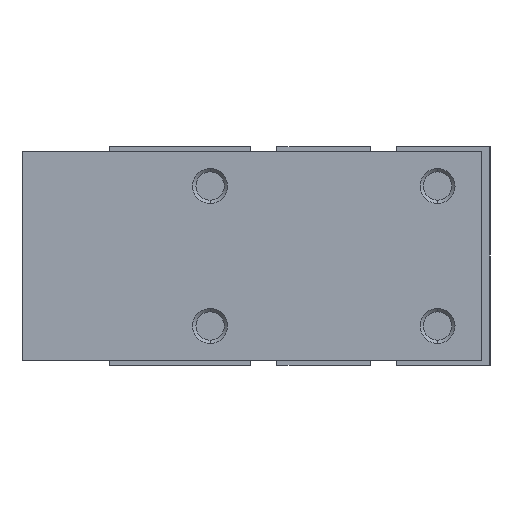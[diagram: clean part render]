
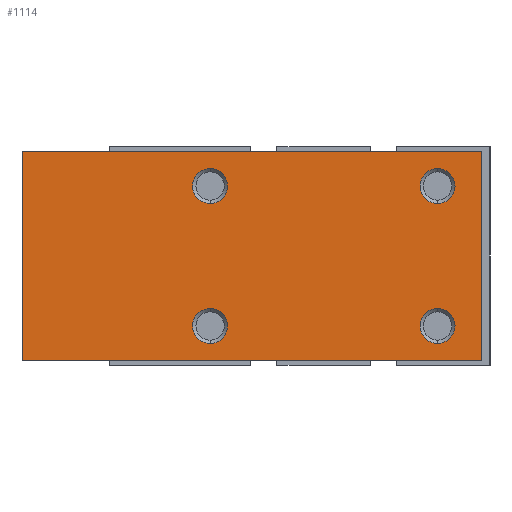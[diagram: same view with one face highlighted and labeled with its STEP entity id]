
A CAD part, left-side view. The second image highlights one B-rep face of the part: STEP entity #1114.
In plain terms, the highlighted planar face has unit normal (-1, 0, 0).
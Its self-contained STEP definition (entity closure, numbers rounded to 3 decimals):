
#5 = EDGE_CURVE ( 'NONE', #4132, #364, #1826, .T. ) ;
#10 = LINE ( 'NONE', #3155, #1952 ) ;
#198 = FACE_OUTER_BOUND ( 'NONE', #3313, .T. ) ;
#225 = CARTESIAN_POINT ( 'NONE',  ( -14., 34.5, -12. ) ) ;
#242 = DIRECTION ( 'NONE',  ( 0., 0., 1. ) ) ;
#274 = EDGE_CURVE ( 'NONE', #1792, #1536, #2158, .T. ) ;
#291 = CARTESIAN_POINT ( 'NONE',  ( -14., 13., 8. ) ) ;
#319 = CIRCLE ( 'NONE', #4915, 2. ) ;
#334 = AXIS2_PLACEMENT_3D ( 'NONE', #4377, #1597, #4406 ) ;
#364 = VERTEX_POINT ( 'NONE', #3918 ) ;
#483 = ORIENTED_EDGE ( 'NONE', *, *, #274, .F. ) ;
#571 = DIRECTION ( 'NONE',  ( -1., 0., 0. ) ) ;
#575 = EDGE_CURVE ( 'NONE', #844, #5852, #2958, .T. ) ;
#591 = PLANE ( 'NONE',  #3599 ) ;
#678 = FACE_BOUND ( 'NONE', #3384, .T. ) ;
#729 = VERTEX_POINT ( 'NONE', #4759 ) ;
#766 = ORIENTED_EDGE ( 'NONE', *, *, #3800, .F. ) ;
#836 = VERTEX_POINT ( 'NONE', #3521 ) ;
#844 = VERTEX_POINT ( 'NONE', #1679 ) ;
#955 = VERTEX_POINT ( 'NONE', #1335 ) ;
#1027 = CARTESIAN_POINT ( 'NONE',  ( -14., -13., -8. ) ) ;
#1054 = DIRECTION ( 'NONE',  ( 0., 0., 1. ) ) ;
#1114 = ADVANCED_FACE ( 'NONE', ( #198, #678, #1631, #2028, #2483 ), #591, .F. ) ;
#1245 = EDGE_CURVE ( 'NONE', #2545, #3267, #4837, .T. ) ;
#1315 = DIRECTION ( 'NONE',  ( -1., 0., 0. ) ) ;
#1332 = DIRECTION ( 'NONE',  ( 0., -1., 0. ) ) ;
#1335 = CARTESIAN_POINT ( 'NONE',  ( -14., 13., -6. ) ) ;
#1404 = CARTESIAN_POINT ( 'NONE',  ( -14., 13., -8. ) ) ;
#1536 = VERTEX_POINT ( 'NONE', #4673 ) ;
#1561 = EDGE_CURVE ( 'NONE', #2931, #955, #2738, .T. ) ;
#1597 = DIRECTION ( 'NONE',  ( -1., 0., 0. ) ) ;
#1631 = FACE_BOUND ( 'NONE', #3882, .T. ) ;
#1679 = CARTESIAN_POINT ( 'NONE',  ( -14., -13., -6. ) ) ;
#1696 = EDGE_CURVE ( 'NONE', #5852, #844, #319, .T. ) ;
#1724 = DIRECTION ( 'NONE',  ( 0., 0., -1. ) ) ;
#1781 = EDGE_CURVE ( 'NONE', #955, #2931, #3091, .T. ) ;
#1791 = VECTOR ( 'NONE', #4412, 1000. ) ;
#1792 = VERTEX_POINT ( 'NONE', #5331 ) ;
#1826 = CIRCLE ( 'NONE', #5357, 2. ) ;
#1894 = CARTESIAN_POINT ( 'NONE',  ( -14., 13., 6. ) ) ;
#1952 = VECTOR ( 'NONE', #5915, 1000. ) ;
#1954 = CARTESIAN_POINT ( 'NONE',  ( -14., -13., -10. ) ) ;
#2028 = FACE_BOUND ( 'NONE', #3417, .T. ) ;
#2158 = CIRCLE ( 'NONE', #334, 2. ) ;
#2180 = ORIENTED_EDGE ( 'NONE', *, *, #5308, .F. ) ;
#2249 = DIRECTION ( 'NONE',  ( 0., 0., 1. ) ) ;
#2271 = EDGE_CURVE ( 'NONE', #729, #836, #5926, .T. ) ;
#2457 = DIRECTION ( 'NONE',  ( 1., 0., 0. ) ) ;
#2483 = FACE_BOUND ( 'NONE', #3760, .T. ) ;
#2501 = VECTOR ( 'NONE', #1332, 1000. ) ;
#2545 = VERTEX_POINT ( 'NONE', #225 ) ;
#2695 = CARTESIAN_POINT ( 'NONE',  ( -14., 13., 8. ) ) ;
#2738 = CIRCLE ( 'NONE', #5020, 2. ) ;
#2740 = CIRCLE ( 'NONE', #3014, 2. ) ;
#2794 = ORIENTED_EDGE ( 'NONE', *, *, #1245, .T. ) ;
#2931 = VERTEX_POINT ( 'NONE', #4147 ) ;
#2958 = CIRCLE ( 'NONE', #3422, 2. ) ;
#2960 = CARTESIAN_POINT ( 'NONE',  ( -14., 34.5, 12. ) ) ;
#3001 = AXIS2_PLACEMENT_3D ( 'NONE', #4913, #1315, #3500 ) ;
#3014 = AXIS2_PLACEMENT_3D ( 'NONE', #4821, #4789, #242 ) ;
#3087 = ORIENTED_EDGE ( 'NONE', *, *, #4278, .F. ) ;
#3091 = CIRCLE ( 'NONE', #3001, 2. ) ;
#3155 = CARTESIAN_POINT ( 'NONE',  ( -14., -18., 12. ) ) ;
#3164 = CARTESIAN_POINT ( 'NONE',  ( -14., 34.5, 12. ) ) ;
#3267 = VERTEX_POINT ( 'NONE', #5163 ) ;
#3313 = EDGE_LOOP ( 'NONE', ( #2794, #2180, #3673, #3530 ) ) ;
#3384 = EDGE_LOOP ( 'NONE', ( #5169, #4767 ) ) ;
#3417 = EDGE_LOOP ( 'NONE', ( #3631, #4931 ) ) ;
#3422 = AXIS2_PLACEMENT_3D ( 'NONE', #1027, #4161, #1054 ) ;
#3449 = DIRECTION ( 'NONE',  ( 0., 1., 0. ) ) ;
#3456 = DIRECTION ( 'NONE',  ( -1., 0., 0. ) ) ;
#3500 = DIRECTION ( 'NONE',  ( 0., 0., 1. ) ) ;
#3521 = CARTESIAN_POINT ( 'NONE',  ( -14., -18., 12. ) ) ;
#3530 = ORIENTED_EDGE ( 'NONE', *, *, #5078, .T. ) ;
#3599 = AXIS2_PLACEMENT_3D ( 'NONE', #2960, #2457, #3449 ) ;
#3631 = ORIENTED_EDGE ( 'NONE', *, *, #575, .F. ) ;
#3673 = ORIENTED_EDGE ( 'NONE', *, *, #2271, .F. ) ;
#3760 = EDGE_LOOP ( 'NONE', ( #3087, #4980 ) ) ;
#3764 = DIRECTION ( 'NONE',  ( 0., 0., 1. ) ) ;
#3800 = EDGE_CURVE ( 'NONE', #1536, #1792, #2740, .T. ) ;
#3882 = EDGE_LOOP ( 'NONE', ( #766, #483 ) ) ;
#3918 = CARTESIAN_POINT ( 'NONE',  ( -14., 13., 10. ) ) ;
#3937 = VECTOR ( 'NONE', #1724, 1000. ) ;
#3967 = DIRECTION ( 'NONE',  ( 0., 0., 1. ) ) ;
#3992 = CARTESIAN_POINT ( 'NONE',  ( -14., 34.5, -12. ) ) ;
#4132 = VERTEX_POINT ( 'NONE', #1894 ) ;
#4147 = CARTESIAN_POINT ( 'NONE',  ( -14., 13., -10. ) ) ;
#4161 = DIRECTION ( 'NONE',  ( -1., 0., 0. ) ) ;
#4278 = EDGE_CURVE ( 'NONE', #364, #4132, #4552, .T. ) ;
#4377 = CARTESIAN_POINT ( 'NONE',  ( -14., -13., 8. ) ) ;
#4406 = DIRECTION ( 'NONE',  ( 0., 0., 1. ) ) ;
#4412 = DIRECTION ( 'NONE',  ( 0., -1., 0. ) ) ;
#4443 = LINE ( 'NONE', #4858, #3937 ) ;
#4482 = DIRECTION ( 'NONE',  ( -1., 0., 0. ) ) ;
#4552 = CIRCLE ( 'NONE', #4642, 2. ) ;
#4605 = DIRECTION ( 'NONE',  ( 0., 0., 1. ) ) ;
#4642 = AXIS2_PLACEMENT_3D ( 'NONE', #291, #3456, #3967 ) ;
#4665 = CARTESIAN_POINT ( 'NONE',  ( -14., -13., -8. ) ) ;
#4673 = CARTESIAN_POINT ( 'NONE',  ( -14., -13., 10. ) ) ;
#4759 = CARTESIAN_POINT ( 'NONE',  ( -14., 34.5, 12. ) ) ;
#4767 = ORIENTED_EDGE ( 'NONE', *, *, #1561, .F. ) ;
#4789 = DIRECTION ( 'NONE',  ( -1., 0., 0. ) ) ;
#4821 = CARTESIAN_POINT ( 'NONE',  ( -14., -13., 8. ) ) ;
#4837 = LINE ( 'NONE', #3992, #1791 ) ;
#4858 = CARTESIAN_POINT ( 'NONE',  ( -14., 34.5, 12. ) ) ;
#4913 = CARTESIAN_POINT ( 'NONE',  ( -14., 13., -8. ) ) ;
#4915 = AXIS2_PLACEMENT_3D ( 'NONE', #4665, #571, #4605 ) ;
#4931 = ORIENTED_EDGE ( 'NONE', *, *, #1696, .F. ) ;
#4980 = ORIENTED_EDGE ( 'NONE', *, *, #5, .F. ) ;
#5020 = AXIS2_PLACEMENT_3D ( 'NONE', #1404, #5481, #3764 ) ;
#5078 = EDGE_CURVE ( 'NONE', #729, #2545, #4443, .T. ) ;
#5163 = CARTESIAN_POINT ( 'NONE',  ( -14., -18., -12. ) ) ;
#5169 = ORIENTED_EDGE ( 'NONE', *, *, #1781, .F. ) ;
#5308 = EDGE_CURVE ( 'NONE', #836, #3267, #10, .T. ) ;
#5331 = CARTESIAN_POINT ( 'NONE',  ( -14., -13., 6. ) ) ;
#5357 = AXIS2_PLACEMENT_3D ( 'NONE', #2695, #4482, #2249 ) ;
#5481 = DIRECTION ( 'NONE',  ( -1., 0., 0. ) ) ;
#5852 = VERTEX_POINT ( 'NONE', #1954 ) ;
#5915 = DIRECTION ( 'NONE',  ( 0., 0., -1. ) ) ;
#5926 = LINE ( 'NONE', #3164, #2501 ) ;
